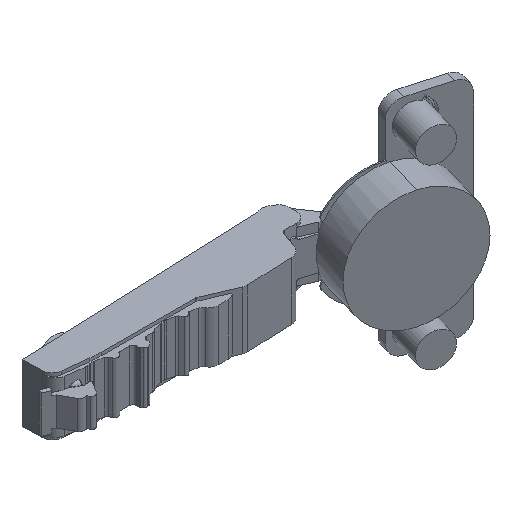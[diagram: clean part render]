
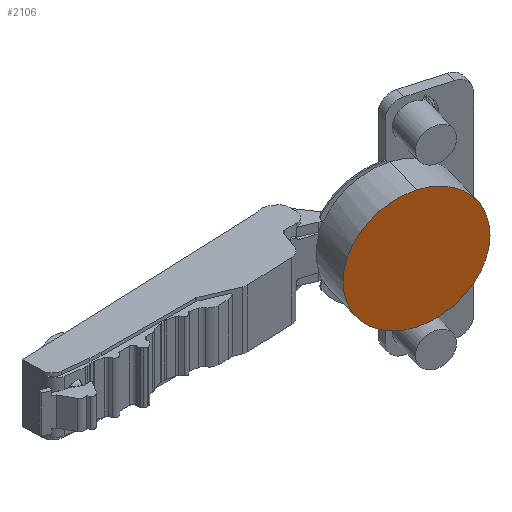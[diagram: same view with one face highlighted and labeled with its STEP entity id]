
A CAD part, isometric view. The second image highlights one B-rep face of the part: STEP entity #2106.
In plain terms, the highlighted planar face has unit normal (-0.277, -0.961, 0).
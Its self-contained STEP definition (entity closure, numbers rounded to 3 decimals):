
#651 = FACE_OUTER_BOUND ( 'NONE', #9328, .T. ) ;
#2106 = ADVANCED_FACE ( 'NONE', ( #651 ), #8791, .F. ) ;
#2513 = AXIS2_PLACEMENT_3D ( 'NONE', #10928, #2601, #2657 ) ;
#2601 = DIRECTION ( 'NONE',  ( 0.276, 0.961, 0. ) ) ;
#2657 = DIRECTION ( 'NONE',  ( 0., 0., 1. ) ) ;
#3817 = CIRCLE ( 'NONE', #5526, 17.4 ) ;
#4253 = DIRECTION ( 'NONE',  ( -0.276, -0.961, 0. ) ) ;
#4521 = DIRECTION ( 'NONE',  ( 0.961, -0.276, 0. ) ) ;
#5217 = CARTESIAN_POINT ( 'NONE',  ( 18.471, -22.875, 0. ) ) ;
#5334 = AXIS2_PLACEMENT_3D ( 'NONE', #5217, #8217, #8085 ) ;
#5526 = AXIS2_PLACEMENT_3D ( 'NONE', #8388, #4253, #4521 ) ;
#6069 = VERTEX_POINT ( 'NONE', #10081 ) ;
#6975 = ORIENTED_EDGE ( 'NONE', *, *, #11410, .T. ) ;
#8085 = DIRECTION ( 'NONE',  ( 0.961, -0.276, 0. ) ) ;
#8217 = DIRECTION ( 'NONE',  ( -0.276, -0.961, 0. ) ) ;
#8388 = CARTESIAN_POINT ( 'NONE',  ( 18.471, -22.875, 0. ) ) ;
#8791 = PLANE ( 'NONE',  #2513 ) ;
#9328 = EDGE_LOOP ( 'NONE', ( #6975, #11592 ) ) ;
#9693 = VERTEX_POINT ( 'NONE', #11115 ) ;
#9781 = CIRCLE ( 'NONE', #5334, 17.4 ) ;
#10081 = CARTESIAN_POINT ( 'NONE',  ( 18.471, -22.875, 17.4 ) ) ;
#10928 = CARTESIAN_POINT ( 'NONE',  ( 29.011, -25.907, -7.7 ) ) ;
#11115 = CARTESIAN_POINT ( 'NONE',  ( 18.471, -22.875, -17.4 ) ) ;
#11410 = EDGE_CURVE ( 'NONE', #6069, #9693, #9781, .T. ) ;
#11592 = ORIENTED_EDGE ( 'NONE', *, *, #12310, .T. ) ;
#12310 = EDGE_CURVE ( 'NONE', #9693, #6069, #3817, .T. ) ;
